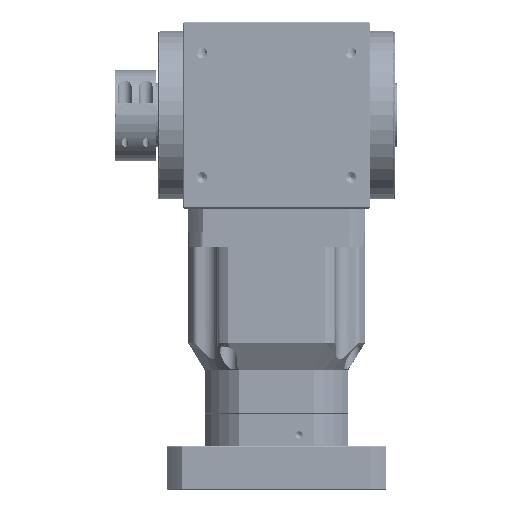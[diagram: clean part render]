
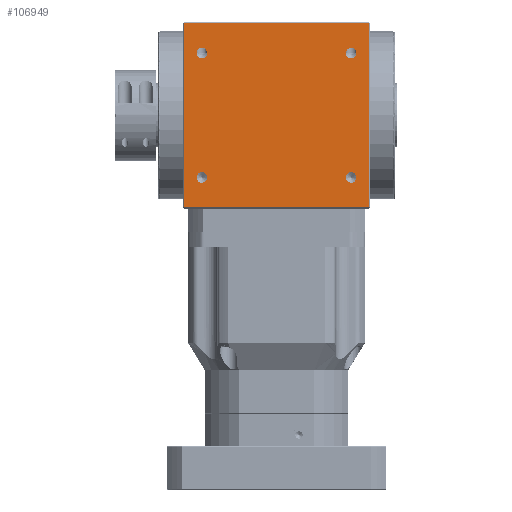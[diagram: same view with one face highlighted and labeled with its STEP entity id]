
A CAD part, top view. The second image highlights one B-rep face of the part: STEP entity #106949.
In plain terms, the highlighted planar face has unit normal (0, 0, 1).
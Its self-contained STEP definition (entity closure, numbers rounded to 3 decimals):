
#907 = FACE_BOUND ( 'NONE', #66869, .T. ) ;
#4006 = ORIENTED_EDGE ( 'NONE', *, *, #87477, .F. ) ;
#4269 = VERTEX_POINT ( 'NONE', #125866 ) ;
#7301 = EDGE_CURVE ( 'NONE', #59951, #148665, #63228, .T. ) ;
#7981 = EDGE_CURVE ( 'NONE', #64333, #12653, #124172, .T. ) ;
#8211 = FACE_BOUND ( 'NONE', #144823, .T. ) ;
#8677 = VECTOR ( 'NONE', #48580, 1000. ) ;
#8934 = DIRECTION ( 'NONE',  ( 0., 0., 1. ) ) ;
#9242 = VERTEX_POINT ( 'NONE', #50821 ) ;
#9880 = CIRCLE ( 'NONE', #146589, 4.25 ) ;
#10569 = CARTESIAN_POINT ( 'NONE',  ( -60., 50., 75. ) ) ;
#11543 = CARTESIAN_POINT ( 'NONE',  ( 64.25, 50., 75. ) ) ;
#12579 = LINE ( 'NONE', #51942, #8677 ) ;
#12653 = VERTEX_POINT ( 'NONE', #26245 ) ;
#13453 = DIRECTION ( 'NONE',  ( 0., 0., -1. ) ) ;
#14741 = CARTESIAN_POINT ( 'NONE',  ( -64.25, 50., 75. ) ) ;
#15013 = LINE ( 'NONE', #57538, #15463 ) ;
#15463 = VECTOR ( 'NONE', #57926, 1000. ) ;
#16230 = EDGE_CURVE ( 'NONE', #141713, #9242, #12579, .T. ) ;
#16877 = CARTESIAN_POINT ( 'NONE',  ( -55.75, -50., 75. ) ) ;
#17315 = FACE_BOUND ( 'NONE', #74365, .T. ) ;
#18161 = AXIS2_PLACEMENT_3D ( 'NONE', #83752, #13453, #95496 ) ;
#18464 = DIRECTION ( 'NONE',  ( -1., 0., 0. ) ) ;
#19146 = CARTESIAN_POINT ( 'NONE',  ( 60., -50., 75. ) ) ;
#19480 = CARTESIAN_POINT ( 'NONE',  ( 74., 74., 75. ) ) ;
#19669 = EDGE_CURVE ( 'NONE', #9242, #73054, #15013, .T. ) ;
#20522 = EDGE_CURVE ( 'NONE', #73054, #142190, #77016, .T. ) ;
#22291 = DIRECTION ( 'NONE',  ( 1., 0., 0. ) ) ;
#24735 = DIRECTION ( 'NONE',  ( 0., 0., 1. ) ) ;
#26245 = CARTESIAN_POINT ( 'NONE',  ( -64.25, -50., 75. ) ) ;
#27452 = CIRCLE ( 'NONE', #36703, 4.25 ) ;
#29688 = CARTESIAN_POINT ( 'NONE',  ( -55.75, 50., 75. ) ) ;
#29768 = ORIENTED_EDGE ( 'NONE', *, *, #19669, .F. ) ;
#30947 = DIRECTION ( 'NONE',  ( 1., 0., 0. ) ) ;
#31647 = ORIENTED_EDGE ( 'NONE', *, *, #16230, .F. ) ;
#32727 = VECTOR ( 'NONE', #18464, 1000. ) ;
#32963 = CARTESIAN_POINT ( 'NONE',  ( 74., 74., 75. ) ) ;
#33638 = DIRECTION ( 'NONE',  ( 1., 0., 0. ) ) ;
#33774 = DIRECTION ( 'NONE',  ( 0., 0., 1. ) ) ;
#34137 = CARTESIAN_POINT ( 'NONE',  ( 60., -50., 75. ) ) ;
#35696 = DIRECTION ( 'NONE',  ( 0., 1., 0. ) ) ;
#36703 = AXIS2_PLACEMENT_3D ( 'NONE', #53441, #53325, #53140 ) ;
#37291 = ORIENTED_EDGE ( 'NONE', *, *, #115762, .F. ) ;
#39660 = ORIENTED_EDGE ( 'NONE', *, *, #20522, .F. ) ;
#40985 = VERTEX_POINT ( 'NONE', #14741 ) ;
#42480 = CIRCLE ( 'NONE', #149071, 4.25 ) ;
#44384 = EDGE_CURVE ( 'NONE', #110610, #4269, #27452, .T. ) ;
#47246 = ORIENTED_EDGE ( 'NONE', *, *, #7301, .F. ) ;
#48171 = ORIENTED_EDGE ( 'NONE', *, *, #72211, .F. ) ;
#48480 = CARTESIAN_POINT ( 'NONE',  ( 55.75, -50., 75. ) ) ;
#48580 = DIRECTION ( 'NONE',  ( 0., -1., 0. ) ) ;
#50821 = CARTESIAN_POINT ( 'NONE',  ( 74., -74., 75. ) ) ;
#51942 = CARTESIAN_POINT ( 'NONE',  ( 74., -74., 75. ) ) ;
#52532 = AXIS2_PLACEMENT_3D ( 'NONE', #140370, #140082, #139863 ) ;
#53140 = DIRECTION ( 'NONE',  ( 1., 0., 0. ) ) ;
#53325 = DIRECTION ( 'NONE',  ( 0., 0., 1. ) ) ;
#53441 = CARTESIAN_POINT ( 'NONE',  ( 60., 50., 75. ) ) ;
#54331 = AXIS2_PLACEMENT_3D ( 'NONE', #10569, #92617, #22291 ) ;
#55141 = DIRECTION ( 'NONE',  ( 0., 0., 1. ) ) ;
#57538 = CARTESIAN_POINT ( 'NONE',  ( 74., -74., 75. ) ) ;
#57926 = DIRECTION ( 'NONE',  ( -1., 0., 0. ) ) ;
#59951 = VERTEX_POINT ( 'NONE', #75784 ) ;
#63228 = CIRCLE ( 'NONE', #75900, 4.25 ) ;
#64333 = VERTEX_POINT ( 'NONE', #16877 ) ;
#66869 = EDGE_LOOP ( 'NONE', ( #71017, #4006 ) ) ;
#68344 = CARTESIAN_POINT ( 'NONE',  ( -74., -74., 75. ) ) ;
#71017 = ORIENTED_EDGE ( 'NONE', *, *, #7981, .F. ) ;
#71717 = EDGE_CURVE ( 'NONE', #4269, #110610, #42480, .T. ) ;
#72211 = EDGE_CURVE ( 'NONE', #91509, #40985, #94351, .T. ) ;
#73054 = VERTEX_POINT ( 'NONE', #109072 ) ;
#74365 = EDGE_LOOP ( 'NONE', ( #97975, #136136 ) ) ;
#75711 = AXIS2_PLACEMENT_3D ( 'NONE', #19146, #101076, #30947 ) ;
#75784 = CARTESIAN_POINT ( 'NONE',  ( 64.25, -50., 75. ) ) ;
#75900 = AXIS2_PLACEMENT_3D ( 'NONE', #34137, #33774, #33638 ) ;
#77016 = LINE ( 'NONE', #68344, #78759 ) ;
#78759 = VECTOR ( 'NONE', #35696, 1000. ) ;
#79204 = CARTESIAN_POINT ( 'NONE',  ( 60., 50., 75. ) ) ;
#83752 = CARTESIAN_POINT ( 'NONE',  ( 74., -74., 75. ) ) ;
#86148 = CIRCLE ( 'NONE', #54331, 4.25 ) ;
#87477 = EDGE_CURVE ( 'NONE', #12653, #64333, #9880, .T. ) ;
#88236 = CIRCLE ( 'NONE', #75711, 4.25 ) ;
#89714 = CARTESIAN_POINT ( 'NONE',  ( -74., 74., 75. ) ) ;
#90999 = DIRECTION ( 'NONE',  ( 1., 0., 0. ) ) ;
#91509 = VERTEX_POINT ( 'NONE', #29688 ) ;
#92617 = DIRECTION ( 'NONE',  ( 0., 0., 1. ) ) ;
#94351 = CIRCLE ( 'NONE', #148199, 4.25 ) ;
#95005 = CARTESIAN_POINT ( 'NONE',  ( -60., -50., 75. ) ) ;
#95496 = DIRECTION ( 'NONE',  ( -1., 0., 0. ) ) ;
#97975 = ORIENTED_EDGE ( 'NONE', *, *, #44384, .F. ) ;
#101076 = DIRECTION ( 'NONE',  ( 0., 0., 1. ) ) ;
#101693 = FACE_OUTER_BOUND ( 'NONE', #130491, .T. ) ;
#101714 = ORIENTED_EDGE ( 'NONE', *, *, #119567, .F. ) ;
#101783 = EDGE_LOOP ( 'NONE', ( #48171, #37291 ) ) ;
#106721 = PLANE ( 'NONE',  #18161 ) ;
#106724 = DIRECTION ( 'NONE',  ( 1., 0., 0. ) ) ;
#106949 = ADVANCED_FACE ( 'NONE', ( #101693, #150439, #17315, #907, #8211 ), #106721, .F. ) ;
#109072 = CARTESIAN_POINT ( 'NONE',  ( -74., -74., 75. ) ) ;
#110610 = VERTEX_POINT ( 'NONE', #11543 ) ;
#115762 = EDGE_CURVE ( 'NONE', #40985, #91509, #86148, .T. ) ;
#119567 = EDGE_CURVE ( 'NONE', #148665, #59951, #88236, .T. ) ;
#122335 = LINE ( 'NONE', #19480, #32727 ) ;
#124172 = CIRCLE ( 'NONE', #52532, 4.25 ) ;
#125046 = CARTESIAN_POINT ( 'NONE',  ( -60., 50., 75. ) ) ;
#125866 = CARTESIAN_POINT ( 'NONE',  ( 55.75, 50., 75. ) ) ;
#130491 = EDGE_LOOP ( 'NONE', ( #39660, #29768, #31647, #142418 ) ) ;
#136136 = ORIENTED_EDGE ( 'NONE', *, *, #71717, .F. ) ;
#136562 = DIRECTION ( 'NONE',  ( 1., 0., 0. ) ) ;
#139863 = DIRECTION ( 'NONE',  ( 1., 0., 0. ) ) ;
#140082 = DIRECTION ( 'NONE',  ( 0., 0., 1. ) ) ;
#140370 = CARTESIAN_POINT ( 'NONE',  ( -60., -50., 75. ) ) ;
#140752 = EDGE_CURVE ( 'NONE', #141713, #142190, #122335, .T. ) ;
#141713 = VERTEX_POINT ( 'NONE', #32963 ) ;
#142190 = VERTEX_POINT ( 'NONE', #89714 ) ;
#142418 = ORIENTED_EDGE ( 'NONE', *, *, #140752, .T. ) ;
#144823 = EDGE_LOOP ( 'NONE', ( #47246, #101714 ) ) ;
#146589 = AXIS2_PLACEMENT_3D ( 'NONE', #95005, #24735, #106724 ) ;
#148199 = AXIS2_PLACEMENT_3D ( 'NONE', #125046, #55141, #136562 ) ;
#148665 = VERTEX_POINT ( 'NONE', #48480 ) ;
#149071 = AXIS2_PLACEMENT_3D ( 'NONE', #79204, #8934, #90999 ) ;
#150439 = FACE_BOUND ( 'NONE', #101783, .T. ) ;
